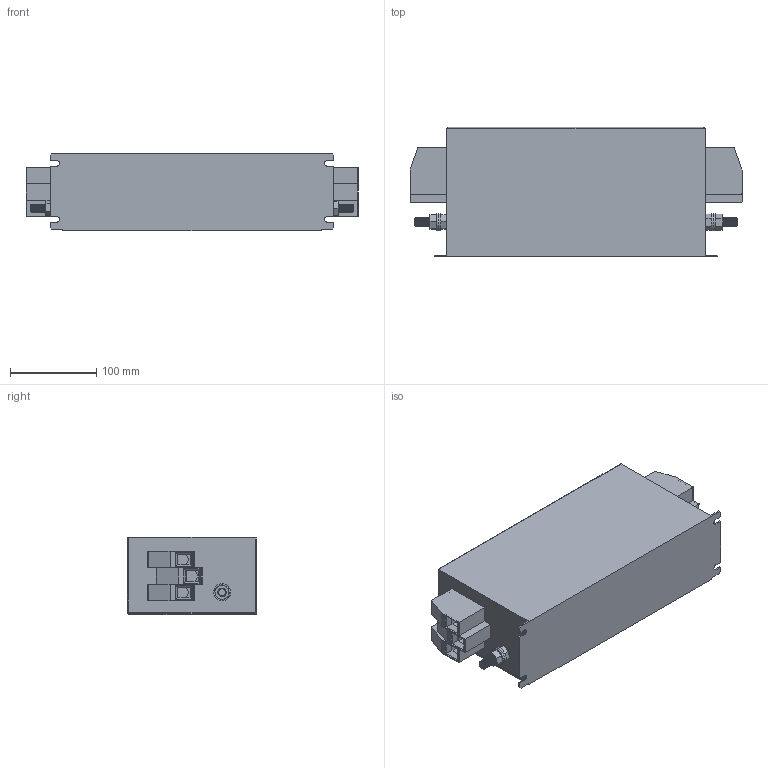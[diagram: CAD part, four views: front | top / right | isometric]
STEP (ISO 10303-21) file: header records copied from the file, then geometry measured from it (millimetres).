
FILE_DESCRIPTION (( 'STEP AP214' ), '1' );
FILE_NAME ('NF-KC-125-LKY.STEP', '2021-08-03T09:11:15', ( '' ), ( '' ), 'SwSTEP 2.0', 'SolidWorks 2021', '' );
FILE_SCHEMA (( 'AUTOMOTIVE_DESIGN' ));
Length unit declared in the file: millimetre
Products named in the file (7): HDFK-50; hex nut style 1_am_B18.2.4.1M - Hex nut, Style 1,  M10 x 1.5, with 16mm WAF --D-N; M10x30 Earth post; hex screw_am_B18.6.7M - M10 x 1.5 x 30 Indented HHMS --30S; 125-LKY case; NF-125-LKY; flat washer narrow_am_B18.22M - Plain washer, 10 mm, narrow
Assembly tree (13 placements, depth 3):
  NF-125-LKY
    125-LKY case
    M10x30 Earth post  x2
      flat washer narrow_am_B18.22M - Plain washer, 10 mm, narrow
      hex nut style 1_am_B18.2.4.1M - Hex nut, Style 1,  M10 x 1.5, with 16mm WAF --D-N
      hex screw_am_B18.6.7M - M10 x 1.5 x 30 Indented HHMS --30S
    HDFK-50  x6
Bounding box: 386.01 x 150 x 90 mm (x, y, z)
Volume: 4238323.7 mm3; surface area: 279564 mm2
Topology: 15 solids, 15 shells, 765 faces, 1735 edges, 1050 vertices
Faces by surface type: plane 371, cone 200, cylinder 192, bspline 2
Entity records: 8259 total; most frequent: CARTESIAN_POINT 1535, DIRECTION 1425, ORIENTED_EDGE 1282, EDGE_CURVE 641, AXIS2_PLACEMENT_3D 524, VERTEX_POINT 378, VECTOR 377, LINE 377
